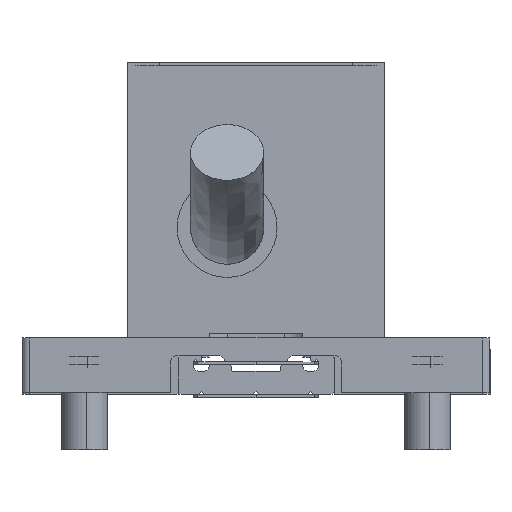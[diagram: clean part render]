
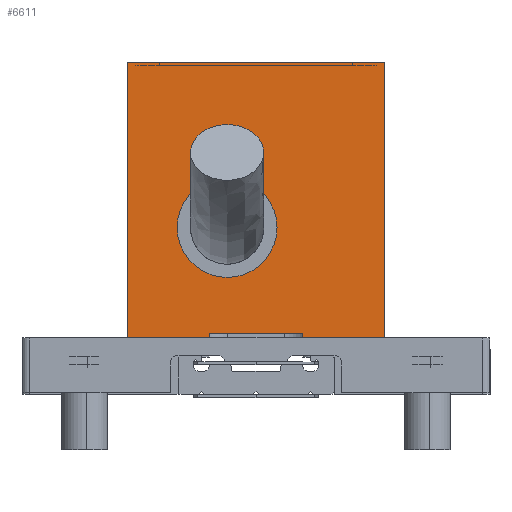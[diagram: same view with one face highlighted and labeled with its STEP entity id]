
A CAD part, left-side view. The second image highlights one B-rep face of the part: STEP entity #6611.
In plain terms, the highlighted planar face has unit normal (-1, 0, 0).
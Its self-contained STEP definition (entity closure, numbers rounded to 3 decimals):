
#390 = CARTESIAN_POINT ( 'NONE',  ( -18., 18.4, -8.25 ) ) ;
#438 = LINE ( 'NONE', #6361, #1588 ) ;
#473 = DIRECTION ( 'NONE',  ( 1., 0., 0. ) ) ;
#489 = EDGE_CURVE ( 'NONE', #2558, #600, #5964, .T. ) ;
#600 = VERTEX_POINT ( 'NONE', #6175 ) ;
#781 = AXIS2_PLACEMENT_3D ( 'NONE', #7754, #5425, #4438 ) ;
#1063 = DIRECTION ( 'NONE',  ( 0., 0., -1. ) ) ;
#1104 = VERTEX_POINT ( 'NONE', #6613 ) ;
#1169 = CARTESIAN_POINT ( 'NONE',  ( -18., 18.4, 8.25 ) ) ;
#1172 = VECTOR ( 'NONE', #8495, 1000. ) ;
#1266 = EDGE_CURVE ( 'NONE', #3711, #5577, #2167, .T. ) ;
#1588 = VECTOR ( 'NONE', #8377, 1000. ) ;
#1625 = ORIENTED_EDGE ( 'NONE', *, *, #5310, .F. ) ;
#1658 = ORIENTED_EDGE ( 'NONE', *, *, #1266, .F. ) ;
#1688 = ORIENTED_EDGE ( 'NONE', *, *, #4271, .F. ) ;
#1909 = DIRECTION ( 'NONE',  ( 0., 0., -1. ) ) ;
#2021 = CARTESIAN_POINT ( 'NONE',  ( -18., 0., 8.25 ) ) ;
#2113 = LINE ( 'NONE', #2854, #6894 ) ;
#2167 = CIRCLE ( 'NONE', #781, 3.2 ) ;
#2208 = VECTOR ( 'NONE', #1909, 1000. ) ;
#2345 = EDGE_CURVE ( 'NONE', #8149, #2558, #2113, .T. ) ;
#2348 = AXIS2_PLACEMENT_3D ( 'NONE', #4189, #4317, #2858 ) ;
#2416 = CARTESIAN_POINT ( 'NONE',  ( -18., 7.8, 1.35 ) ) ;
#2422 = ORIENTED_EDGE ( 'NONE', *, *, #3660, .T. ) ;
#2558 = VERTEX_POINT ( 'NONE', #3009 ) ;
#2604 = FACE_BOUND ( 'NONE', #5017, .T. ) ;
#2687 = LINE ( 'NONE', #2780, #1172 ) ;
#2780 = CARTESIAN_POINT ( 'NONE',  ( -18., 18.4, -3. ) ) ;
#2854 = CARTESIAN_POINT ( 'NONE',  ( -18., 18.4, 8.25 ) ) ;
#2858 = DIRECTION ( 'NONE',  ( 0., 0., 1. ) ) ;
#2922 = CARTESIAN_POINT ( 'NONE',  ( -18., 1., -3. ) ) ;
#2995 = LINE ( 'NONE', #4384, #4481 ) ;
#3009 = CARTESIAN_POINT ( 'NONE',  ( -18., 0., 8.25 ) ) ;
#3053 = VERTEX_POINT ( 'NONE', #2922 ) ;
#3092 = VECTOR ( 'NONE', #1063, 1000. ) ;
#3311 = CIRCLE ( 'NONE', #2348, 3.2 ) ;
#3520 = ORIENTED_EDGE ( 'NONE', *, *, #489, .F. ) ;
#3660 = EDGE_CURVE ( 'NONE', #6478, #1104, #438, .T. ) ;
#3711 = VERTEX_POINT ( 'NONE', #2416 ) ;
#3768 = CARTESIAN_POINT ( 'NONE',  ( -18., 1., 3. ) ) ;
#3810 = PLANE ( 'NONE',  #4270 ) ;
#4020 = DIRECTION ( 'NONE',  ( 0., -1., 0. ) ) ;
#4113 = LINE ( 'NONE', #4309, #3092 ) ;
#4189 = CARTESIAN_POINT ( 'NONE',  ( -18., 7.8, -1.85 ) ) ;
#4270 = AXIS2_PLACEMENT_3D ( 'NONE', #5143, #473, #7167 ) ;
#4271 = EDGE_CURVE ( 'NONE', #600, #6676, #5253, .T. ) ;
#4309 = CARTESIAN_POINT ( 'NONE',  ( -18., 18.4, 0. ) ) ;
#4317 = DIRECTION ( 'NONE',  ( -1., 0., 0. ) ) ;
#4374 = FACE_OUTER_BOUND ( 'NONE', #6373, .T. ) ;
#4384 = CARTESIAN_POINT ( 'NONE',  ( -18., 1., 8.25 ) ) ;
#4438 = DIRECTION ( 'NONE',  ( 0., 0., 1. ) ) ;
#4481 = VECTOR ( 'NONE', #7008, 1000. ) ;
#4552 = VERTEX_POINT ( 'NONE', #5680 ) ;
#4712 = ORIENTED_EDGE ( 'NONE', *, *, #2345, .F. ) ;
#5017 = EDGE_LOOP ( 'NONE', ( #1658, #5703 ) ) ;
#5061 = CARTESIAN_POINT ( 'NONE',  ( -18., 0., 8.25 ) ) ;
#5143 = CARTESIAN_POINT ( 'NONE',  ( -18., 18.4, 8.25 ) ) ;
#5253 = LINE ( 'NONE', #8471, #6693 ) ;
#5310 = EDGE_CURVE ( 'NONE', #3053, #4552, #2687, .T. ) ;
#5425 = DIRECTION ( 'NONE',  ( -1., 0., 0. ) ) ;
#5459 = EDGE_CURVE ( 'NONE', #8149, #6478, #4113, .T. ) ;
#5577 = VERTEX_POINT ( 'NONE', #8390 ) ;
#5680 = CARTESIAN_POINT ( 'NONE',  ( -18., 0., -3. ) ) ;
#5703 = ORIENTED_EDGE ( 'NONE', *, *, #6919, .F. ) ;
#5964 = LINE ( 'NONE', #2021, #7194 ) ;
#6030 = EDGE_CURVE ( 'NONE', #6676, #3053, #2995, .T. ) ;
#6085 = ORIENTED_EDGE ( 'NONE', *, *, #6030, .F. ) ;
#6175 = CARTESIAN_POINT ( 'NONE',  ( -18., 0., 3. ) ) ;
#6361 = CARTESIAN_POINT ( 'NONE',  ( -18., 18.4, -8.25 ) ) ;
#6373 = EDGE_LOOP ( 'NONE', ( #1688, #3520, #4712, #8494, #2422, #7692, #1625, #6085 ) ) ;
#6478 = VERTEX_POINT ( 'NONE', #390 ) ;
#6611 = ADVANCED_FACE ( 'NONE', ( #4374, #2604 ), #3810, .F. ) ;
#6613 = CARTESIAN_POINT ( 'NONE',  ( -18., 0., -8.25 ) ) ;
#6676 = VERTEX_POINT ( 'NONE', #3768 ) ;
#6693 = VECTOR ( 'NONE', #7061, 1000. ) ;
#6723 = EDGE_CURVE ( 'NONE', #4552, #1104, #7817, .T. ) ;
#6894 = VECTOR ( 'NONE', #4020, 1000. ) ;
#6919 = EDGE_CURVE ( 'NONE', #5577, #3711, #3311, .T. ) ;
#7008 = DIRECTION ( 'NONE',  ( 0., 0., -1. ) ) ;
#7061 = DIRECTION ( 'NONE',  ( 0., 1., 0. ) ) ;
#7167 = DIRECTION ( 'NONE',  ( 0., 0., -1. ) ) ;
#7194 = VECTOR ( 'NONE', #7280, 1000. ) ;
#7280 = DIRECTION ( 'NONE',  ( 0., 0., -1. ) ) ;
#7692 = ORIENTED_EDGE ( 'NONE', *, *, #6723, .F. ) ;
#7754 = CARTESIAN_POINT ( 'NONE',  ( -18., 7.8, -1.85 ) ) ;
#7817 = LINE ( 'NONE', #5061, #2208 ) ;
#8149 = VERTEX_POINT ( 'NONE', #1169 ) ;
#8377 = DIRECTION ( 'NONE',  ( 0., -1., 0. ) ) ;
#8390 = CARTESIAN_POINT ( 'NONE',  ( -18., 7.8, -5.05 ) ) ;
#8471 = CARTESIAN_POINT ( 'NONE',  ( -18., 18.4, 3. ) ) ;
#8494 = ORIENTED_EDGE ( 'NONE', *, *, #5459, .T. ) ;
#8495 = DIRECTION ( 'NONE',  ( 0., -1., 0. ) ) ;
